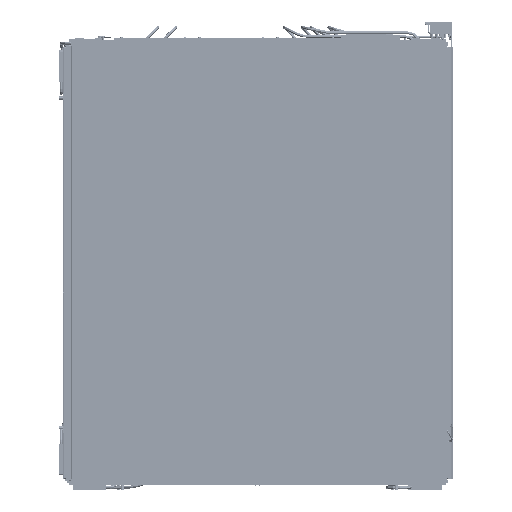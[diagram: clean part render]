
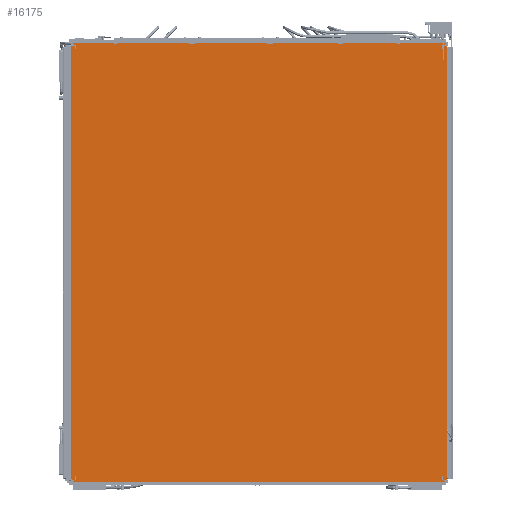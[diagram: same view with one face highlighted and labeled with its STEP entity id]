
A CAD part, front view. The second image highlights one B-rep face of the part: STEP entity #16175.
In plain terms, the highlighted planar face has unit normal (0, -1, 0).
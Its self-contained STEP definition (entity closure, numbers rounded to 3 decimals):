
#16175=ADVANCED_FACE('',(#30292),#24760,.T.);
#24760=PLANE('',#179231);
#30292=FACE_OUTER_BOUND('',#37507,.T.);
#37507=EDGE_LOOP('',(#48711,#48712,#48713,#48714));
#48711=ORIENTED_EDGE('',*,*,#100350,.T.);
#48712=ORIENTED_EDGE('',*,*,#100346,.T.);
#48713=ORIENTED_EDGE('',*,*,#100351,.F.);
#48714=ORIENTED_EDGE('',*,*,#100352,.T.);
#87772=VERTEX_POINT('',#236126);
#87773=VERTEX_POINT('',#236127);
#87776=VERTEX_POINT('',#236135);
#87777=VERTEX_POINT('',#236137);
#100346=EDGE_CURVE('',#87772,#87773,#159770,.T.);
#100350=EDGE_CURVE('',#87776,#87772,#159774,.T.);
#100351=EDGE_CURVE('',#87777,#87773,#159775,.T.);
#100352=EDGE_CURVE('',#87777,#87776,#159776,.T.);
#159770=LINE('',#236125,#170393);
#159774=LINE('',#236134,#170397);
#159775=LINE('',#236136,#170398);
#159776=LINE('',#236138,#170399);
#170393=VECTOR('',#196958,1.);
#170397=VECTOR('',#196964,1.);
#170398=VECTOR('',#196965,1.);
#170399=VECTOR('',#196966,1.);
#179231=AXIS2_PLACEMENT_3D('',#236139,#196967,#196968);
#196958=DIRECTION('',(-1.,0.,0.));
#196964=DIRECTION('',(0.,0.,1.));
#196965=DIRECTION('',(0.,0.,1.));
#196966=DIRECTION('',(1.,0.,0.));
#196967=DIRECTION('',(0.,-1.,0.));
#196968=DIRECTION('',(0.,0.,-1.));
#236125=CARTESIAN_POINT('',(1060.5,0.,2487.));
#236126=CARTESIAN_POINT('',(2121.,0.,2487.));
#236127=CARTESIAN_POINT('',(0.,0.,2487.));
#236134=CARTESIAN_POINT('',(2121.,0.,0.));
#236135=CARTESIAN_POINT('',(2121.,0.,0.));
#236136=CARTESIAN_POINT('',(0.,0.,0.));
#236137=CARTESIAN_POINT('',(0.,0.,0.));
#236138=CARTESIAN_POINT('',(1060.5,0.,0.));
#236139=CARTESIAN_POINT('',(1060.5,0.,0.));
